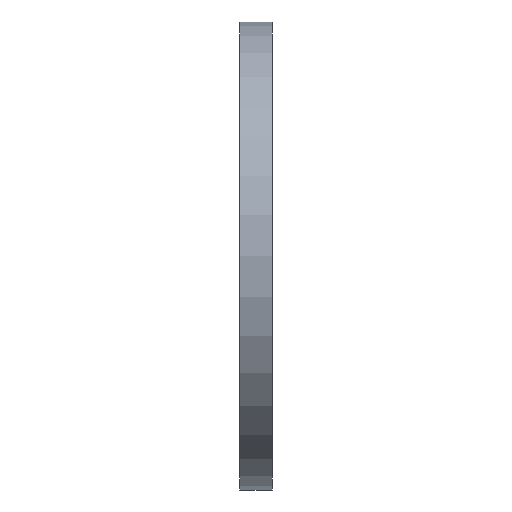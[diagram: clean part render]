
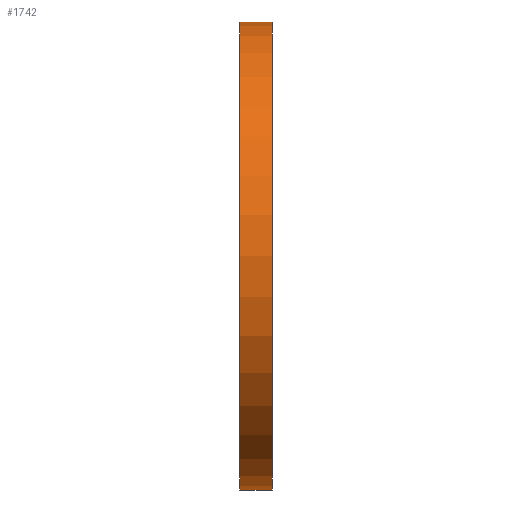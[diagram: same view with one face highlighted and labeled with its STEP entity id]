
A CAD part, left-side view. The second image highlights one B-rep face of the part: STEP entity #1742.
In plain terms, the highlighted cylindrical face has radius 63.5 mm (diameter 127 mm), a partial arc.
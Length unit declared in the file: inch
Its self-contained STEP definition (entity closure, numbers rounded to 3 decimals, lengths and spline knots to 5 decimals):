
#6 = EDGE_CURVE ( 'NONE', #1150, #1184, #1316, .T. ) ;
#36 = EDGE_CURVE ( 'NONE', #1154, #1150, #1388, .T. ) ;
#57 = EDGE_CURVE ( 'NONE', #1154, #1177, #1474, .T. ) ;
#149 = AXIS2_PLACEMENT_3D ( 'NONE', #395, #406, #445 ) ;
#156 = EDGE_CURVE ( 'NONE', #1177, #1184, #1605, .T. ) ;
#189 = AXIS2_PLACEMENT_3D ( 'NONE', #648, #631, #650 ) ;
#235 = AXIS2_PLACEMENT_3D ( 'NONE', #917, #908, #909 ) ;
#332 = CARTESIAN_POINT ( 'NONE',  ( 0., 0.345, 2.5 ) ) ;
#337 = DIRECTION ( 'NONE',  ( 0., -1., 0. ) ) ;
#395 = CARTESIAN_POINT ( 'NONE',  ( 0., 0.345, 0. ) ) ;
#406 = DIRECTION ( 'NONE',  ( 0., 1., 0. ) ) ;
#445 = DIRECTION ( 'NONE',  ( 0., 0., 1. ) ) ;
#458 = CARTESIAN_POINT ( 'NONE',  ( 0., 0.345, -2.5 ) ) ;
#468 = DIRECTION ( 'NONE',  ( 0., -1., 0. ) ) ;
#631 = DIRECTION ( 'NONE',  ( 0., 1., 0. ) ) ;
#648 = CARTESIAN_POINT ( 'NONE',  ( 0., 0., 0. ) ) ;
#650 = DIRECTION ( 'NONE',  ( 0., 0., 1. ) ) ;
#675 = CARTESIAN_POINT ( 'NONE',  ( 0., 0.345, 2.5 ) ) ;
#677 = CARTESIAN_POINT ( 'NONE',  ( 0., 0.345, -2.5 ) ) ;
#731 = CARTESIAN_POINT ( 'NONE',  ( 0., 0., 2.5 ) ) ;
#748 = CARTESIAN_POINT ( 'NONE',  ( 0., 0., -2.5 ) ) ;
#908 = DIRECTION ( 'NONE',  ( 0., -1., 0. ) ) ;
#909 = DIRECTION ( 'NONE',  ( 0., 0., -1. ) ) ;
#917 = CARTESIAN_POINT ( 'NONE',  ( 0., 0.345, 0. ) ) ;
#919 = EDGE_LOOP ( 'NONE', ( #1047, #1025, #1020, #1069 ) ) ;
#1020 = ORIENTED_EDGE ( 'NONE', *, *, #57, .T. ) ;
#1025 = ORIENTED_EDGE ( 'NONE', *, *, #36, .F. ) ;
#1047 = ORIENTED_EDGE ( 'NONE', *, *, #6, .F. ) ;
#1069 = ORIENTED_EDGE ( 'NONE', *, *, #156, .T. ) ;
#1150 = VERTEX_POINT ( 'NONE', #675 ) ;
#1154 = VERTEX_POINT ( 'NONE', #677 ) ;
#1177 = VERTEX_POINT ( 'NONE', #748 ) ;
#1184 = VERTEX_POINT ( 'NONE', #731 ) ;
#1316 = LINE ( 'NONE', #332, #1317 ) ;
#1317 = VECTOR ( 'NONE', #337, 39.37008 ) ;
#1388 = CIRCLE ( 'NONE', #149, 2.5 ) ;
#1466 = VECTOR ( 'NONE', #468, 39.37008 ) ;
#1474 = LINE ( 'NONE', #458, #1466 ) ;
#1605 = CIRCLE ( 'NONE', #189, 2.5 ) ;
#1614 = CYLINDRICAL_SURFACE ( 'NONE', #235, 2.5 ) ;
#1630 = FACE_OUTER_BOUND ( 'NONE', #919, .T. ) ;
#1742 = ADVANCED_FACE ( 'NONE', ( #1630 ), #1614, .T. ) ;
